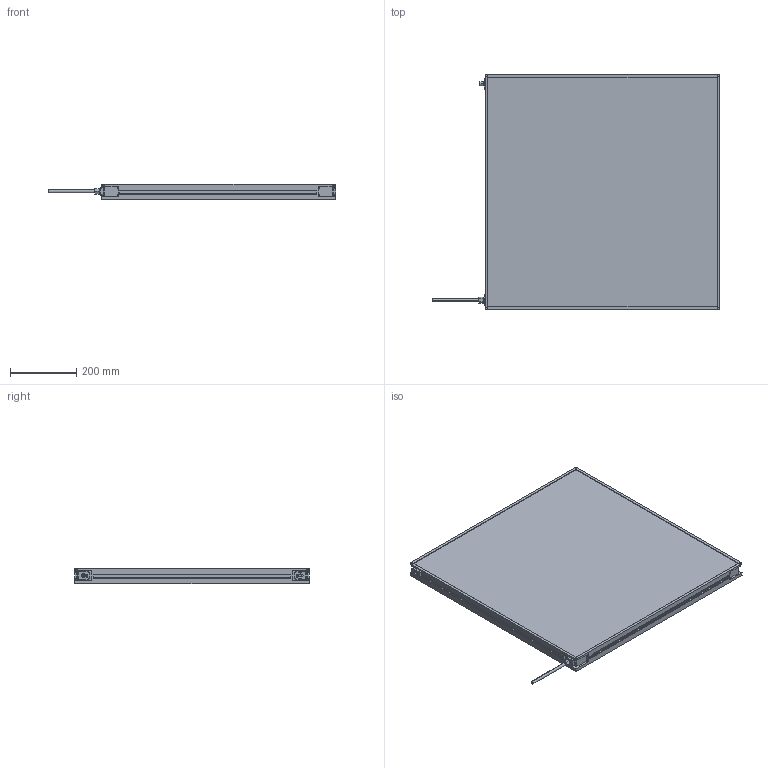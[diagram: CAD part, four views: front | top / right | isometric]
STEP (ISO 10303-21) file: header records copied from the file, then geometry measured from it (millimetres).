
FILE_DESCRIPTION (( 'STEP AP214' ), '1' );
FILE_NAME ('MBACK-xxxx-xxx-M1A2_CLIENT700x700.STEP', '2022-04-01T11:49:49', ( '' ), ( '' ), 'SwSTEP 2.0', 'SolidWorks 2020', '' );
FILE_SCHEMA (( 'AUTOMOTIVE_DESIGN' ));
Length unit declared in the file: millimetre
Products named in the file (1): MBACK-xxxx-xxx-M1A2_CLIENT700x700
Bounding box: 867.4 x 708 x 45.5 mm (x, y, z)
Volume: 20870772.9 mm3; surface area: 1196517 mm2
Topology: 1 solids, 1 shells, 470 faces, 1210 edges, 804 vertices
Faces by surface type: plane 265, cylinder 117, bspline 80, cone 8
Entity records: 18046 total; most frequent: CARTESIAN_POINT 6837, ORIENTED_EDGE 2420, DIRECTION 2082, EDGE_CURVE 1210, VERTEX_POINT 804, LINE 800, VECTOR 800, AXIS2_PLACEMENT_3D 641
